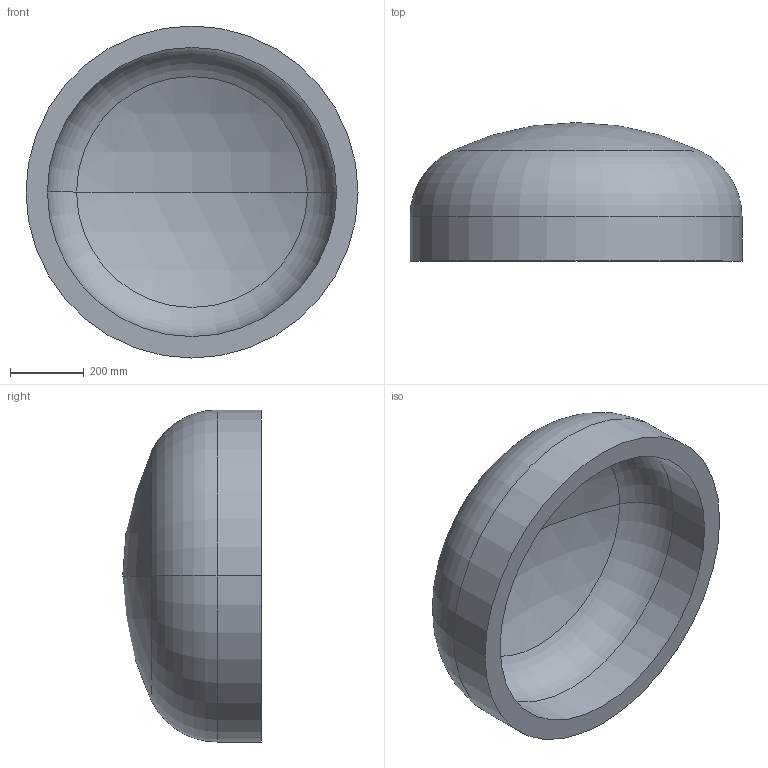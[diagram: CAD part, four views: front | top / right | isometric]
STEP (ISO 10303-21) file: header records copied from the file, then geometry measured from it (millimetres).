
FILE_DESCRIPTION (( 'STEP AP203' ), '1' );
FILE_NAME ('DIN 28013 Korbbogenform_-_Boden DIN 28013 - 900 x 120 - I - s=58.step', '2016-07-01T08:34:14', ( '' ), ( '' ), 'SwSTEP 2.0', 'SolidWorks 2013', '' );
FILE_SCHEMA (( 'CONFIG_CONTROL_DESIGN' ));
Length unit declared in the file: millimetre
Products named in the file (1): DIN 28013 Korbbogenform_-_Boden DIN 28013 - 900 x 120 - I - s=58
Bounding box: 900 x 375.61 x 900 mm (x, y, z)
Volume: 65595892.6 mm3; surface area: 2422395.3 mm2
Topology: 1 solids, 1 shells, 13 faces, 24 edges, 14 vertices
Faces by surface type: torus 4, cylinder 4, sphere 4, plane 1
Entity records: 407 total; most frequent: DIRECTION 72, CARTESIAN_POINT 52, ORIENTED_EDGE 48, AXIS2_PLACEMENT_3D 34, EDGE_CURVE 24, CIRCLE 20, EDGE_LOOP 14, VERTEX_POINT 14
